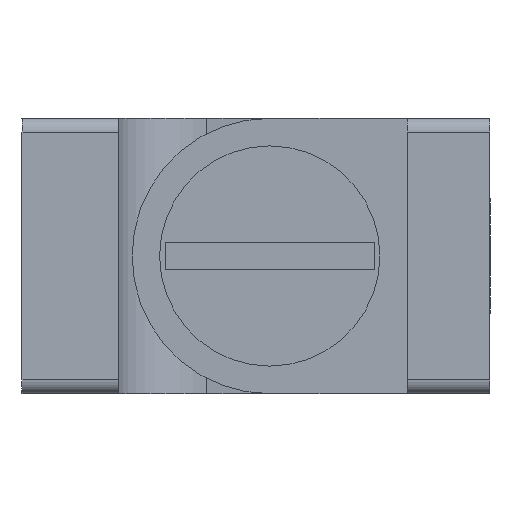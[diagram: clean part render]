
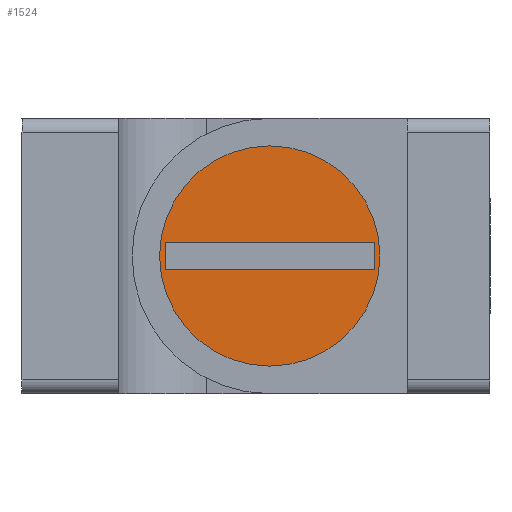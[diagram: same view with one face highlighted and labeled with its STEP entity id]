
A CAD part, front view. The second image highlights one B-rep face of the part: STEP entity #1524.
In plain terms, the highlighted planar face has unit normal (0, -1, 0).
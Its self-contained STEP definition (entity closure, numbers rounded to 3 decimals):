
#111=LINE('',#2374,#207);
#115=LINE('',#2382,#211);
#118=LINE('',#2388,#214);
#121=LINE('',#2393,#217);
#207=VECTOR('',#1924,1.);
#211=VECTOR('',#1930,7.61);
#214=VECTOR('',#1935,1.);
#217=VECTOR('',#1940,7.61);
#328=FACE_BOUND('',#526,.T.);
#396=FACE_OUTER_BOUND('',#525,.T.);
#525=EDGE_LOOP('',(#1200));
#526=EDGE_LOOP('',(#1201,#1202,#1203,#1204));
#647=CIRCLE('',#1668,4.);
#743=VERTEX_POINT('',#2372);
#744=VERTEX_POINT('',#2373);
#747=VERTEX_POINT('',#2381);
#749=VERTEX_POINT('',#2387);
#757=VERTEX_POINT('',#2415);
#907=EDGE_CURVE('',#743,#744,#111,.T.);
#911=EDGE_CURVE('',#747,#743,#115,.T.);
#914=EDGE_CURVE('',#749,#747,#118,.T.);
#917=EDGE_CURVE('',#744,#749,#121,.T.);
#925=EDGE_CURVE('',#757,#757,#647,.T.);
#1200=ORIENTED_EDGE('',*,*,#925,.T.);
#1201=ORIENTED_EDGE('',*,*,#907,.T.);
#1202=ORIENTED_EDGE('',*,*,#917,.T.);
#1203=ORIENTED_EDGE('',*,*,#914,.T.);
#1204=ORIENTED_EDGE('',*,*,#911,.T.);
#1455=PLANE('',#1671);
#1524=ADVANCED_FACE('',(#396,#328),#1455,.T.);
#1668=AXIS2_PLACEMENT_3D('',#2416,#1970,#1971);
#1671=AXIS2_PLACEMENT_3D('',#2420,#1976,#1977);
#1924=DIRECTION('',(0.,0.,-1.));
#1930=DIRECTION('',(1.,0.,0.));
#1935=DIRECTION('',(0.,0.,1.));
#1940=DIRECTION('',(-1.,0.,0.));
#1970=DIRECTION('center_axis',(0.,-1.,0.));
#1971=DIRECTION('ref_axis',(-1.,0.,0.));
#1976=DIRECTION('center_axis',(0.,-1.,0.));
#1977=DIRECTION('ref_axis',(0.,0.,-1.));
#2372=CARTESIAN_POINT('',(-4.195,8.25,-4.5));
#2373=CARTESIAN_POINT('',(-4.195,8.25,-5.5));
#2374=CARTESIAN_POINT('',(-4.195,8.25,-4.75));
#2381=CARTESIAN_POINT('',(-11.805,8.25,-4.5));
#2382=CARTESIAN_POINT('',(-9.902,8.25,-4.5));
#2387=CARTESIAN_POINT('',(-11.805,8.25,-5.5));
#2388=CARTESIAN_POINT('',(-11.805,8.25,-5.25));
#2393=CARTESIAN_POINT('',(-6.098,8.25,-5.5));
#2415=CARTESIAN_POINT('',(-4.,8.25,-5.));
#2416=CARTESIAN_POINT('Origin',(-8.,8.25,-5.));
#2420=CARTESIAN_POINT('Origin',(-8.,8.25,-5.));
